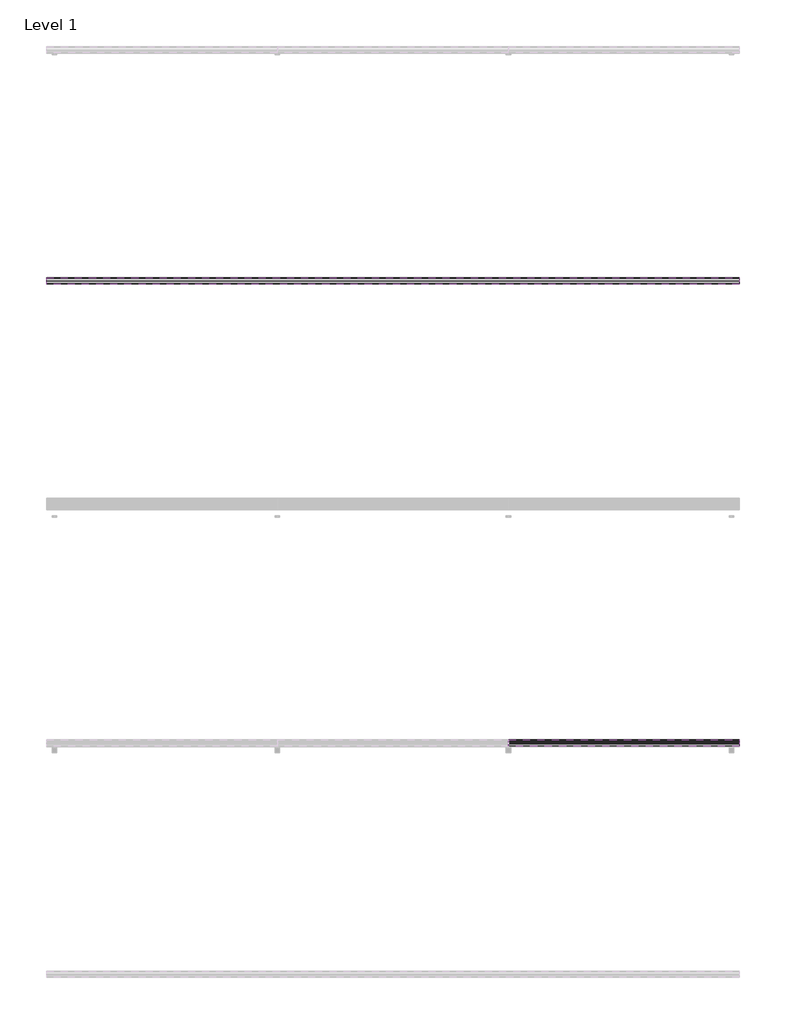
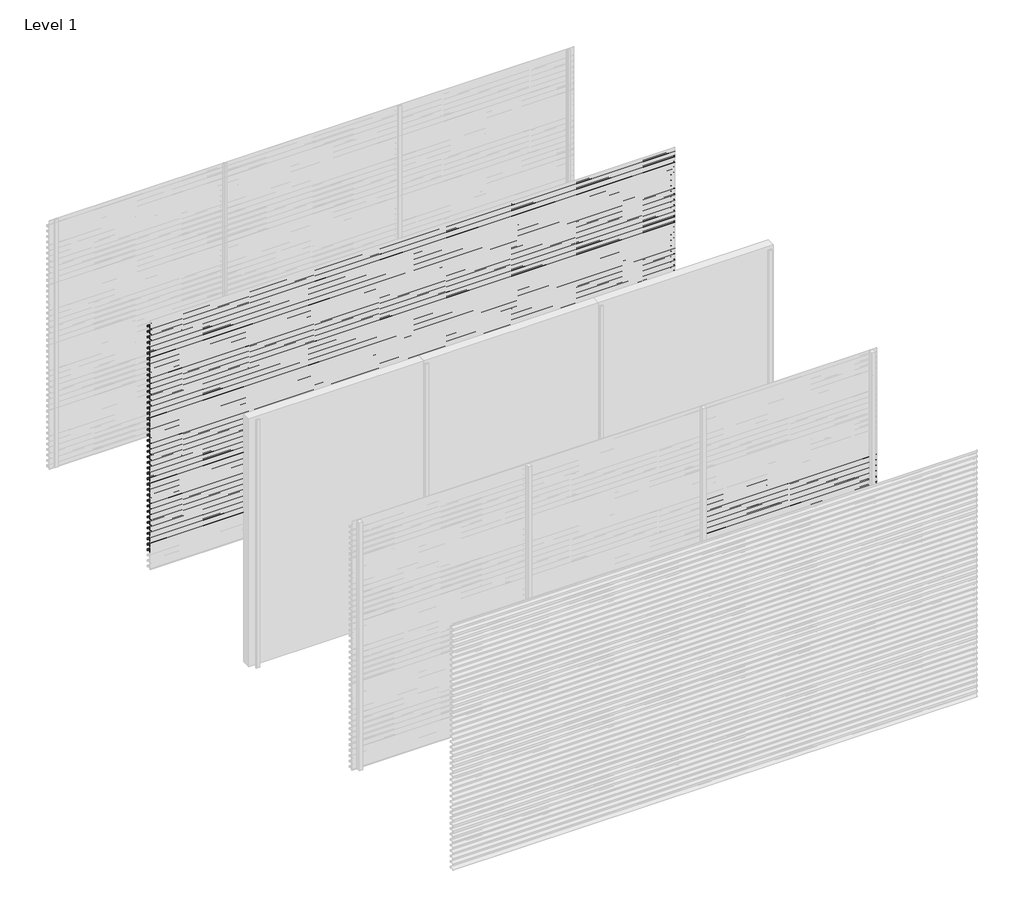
# One storey, part 15 of 27: 71 proxies.
"""IFC4 building model written with IfcOpenShell, lengths in millimetres."""

import ifcopenshell
import ifcopenshell.guid

model = None  # the IFC model being written
_history = None  # IfcOwnerHistory: only IFC2X3 demands one
_inside = {}  # id of a spatial element -> (the spatial element, [elements in it])
_under = {}  # id of a project, library or spatial element -> (it, [spatial elements below it])
_declared = {}  # id of a project -> (the project, [libraries it declares])
_typed = {}  # id of a type object -> (the type object, [elements of that type])
_made_of = {}  # id of a material, layer set ... -> (it, [elements and type objects made of it])


def new_model(schema):
    """Start an empty IFC model of exactly this schema.

    Asked for "IFC4X3", IfcOpenShell would pick the latest addendum, in which some entities
    have other attributes; the version numbers below select the first issue.
    IFC2X3 requires an IfcOwnerHistory on every rooted entity: one is made here for all.
    """
    global model, _history
    if schema == "IFC4X3":
        model = ifcopenshell.file(schema_version=(4, 3, 0, 0))
    else:
        model = ifcopenshell.file(schema=schema)
    _inside.clear()
    _under.clear()
    _declared.clear()
    _typed.clear()
    _made_of.clear()
    _history = None
    if model.schema == "IFC2X3":
        org = make("IfcOrganization", Name="unknown")
        user = make(
            "IfcPersonAndOrganization",
            ThePerson=make("IfcPerson", FamilyName="unknown"),
            TheOrganization=org,
        )
        app = make(
            "IfcApplication",
            ApplicationDeveloper=org,
            Version="unknown",
            ApplicationFullName="unknown",
            ApplicationIdentifier="unknown",
        )
        _history = make(
            "IfcOwnerHistory",
            OwningUser=user,
            OwningApplication=app,
            ChangeAction="ADDED",
            CreationDate=0,
        )
    return model


def make(cls, **values):
    """One entity of the class cls with the attributes given. An attribute that is None is left unset."""
    return model.create_entity(
        cls, **{name: value for name, value in values.items() if value is not None}
    )


def rooted(cls, **values):
    """An entity with a GlobalId (a new one), such as an element, a storey or a relation."""
    return make(cls, GlobalId=ifcopenshell.guid.new(), OwnerHistory=_history, **values)


def si_unit(unit_type, name, prefix=None):
    """IfcSIUnit, for example si_unit("LENGTHUNIT", "METRE", prefix="MILLI")."""
    return make("IfcSIUnit", UnitType=unit_type, Prefix=prefix, Name=name)


def assignment(units):
    """IfcUnitAssignment: the units of a project."""
    return None if units is None else make("IfcUnitAssignment", Units=units)


def point(xyz):
    """IfcCartesianPoint."""
    return None if xyz is None else make("IfcCartesianPoint", Coordinates=xyz)


def direction(xyz):
    """IfcDirection."""
    return None if xyz is None else make("IfcDirection", DirectionRatios=xyz)


def frame(location, z_axis=None, x_axis=None):
    """IfcAxis2Placement3D, a coordinate frame: its origin and axes. An axis left out is left unset."""
    return make(
        "IfcAxis2Placement3D",
        Location=point(location),
        Axis=direction(z_axis),
        RefDirection=direction(x_axis),
    )


def origin():
    """The frame at (0, 0, 0) with its axes left unset."""
    return frame((0.0, 0.0, 0.0))


def place(relative_to, where):
    """IfcLocalPlacement: puts the frame where relative to a parent placement (None: the world)."""
    return make(
        "IfcLocalPlacement", PlacementRelTo=relative_to, RelativePlacement=where
    )


def context(
    kind, dimensions, precision=None, world=None, true_north=None, identifier=None
):
    """IfcGeometricRepresentationContext, for example the 3D "Model" context."""
    return make(
        "IfcGeometricRepresentationContext",
        ContextIdentifier=identifier,
        ContextType=kind,
        CoordinateSpaceDimension=dimensions,
        Precision=precision,
        WorldCoordinateSystem=world,
        TrueNorth=true_north,
    )


def project(units=None, contexts=None):
    """IfcProject with its units and contexts."""
    return rooted(
        "IfcProject",
        Name="project",
        RepresentationContexts=contexts,
        UnitsInContext=assignment(units),
    )


def spatial(cls, under=None, at=None, **own):
    """A site, building, storey or space (cls), placed at a placement, below another one or the project."""
    s = rooted(cls, ObjectPlacement=at, **own)
    if under is not None:
        _under.setdefault(under.id(), (under, []))[1].append(s)
    return s


def polyline(points):
    """IfcPolyline through the points."""
    return make("IfcPolyline", Points=[point(p) for p in points])


def outline(outer, holes=None, kind="AREA"):
    """IfcArbitraryClosedProfileDef: a profile drawn as a closed curve; with holes, ...WithVoids."""
    if holes is None:
        return make("IfcArbitraryClosedProfileDef", ProfileType=kind, OuterCurve=outer)
    return make(
        "IfcArbitraryProfileDefWithVoids",
        ProfileType=kind,
        OuterCurve=outer,
        InnerCurves=holes,
    )


def extrude(swept, where, along, depth):
    """IfcExtrudedAreaSolid: the profile swept, set in the frame where, extruded along a direction by depth."""
    return make(
        "IfcExtrudedAreaSolid",
        SweptArea=swept,
        Position=where,
        ExtrudedDirection=direction(along),
        Depth=depth,
    )


def shape(context_of_items, identifier, shape_type, items):
    """IfcShapeRepresentation: the items that make up one representation, for example the "Body"."""
    return make(
        "IfcShapeRepresentation",
        ContextOfItems=context_of_items,
        RepresentationIdentifier=identifier,
        RepresentationType=shape_type,
        Items=items,
    )


def made_of(thing, what):
    """Note that an element or type object is made of a material, layer set ...; save() writes the relation."""
    if what is not None:
        _made_of.setdefault(what.id(), (what, []))[1].append(thing)
    return thing


def element(
    cls,
    number,
    at=None,
    inside=None,
    cuts=None,
    type_object=None,
    material=None,
    context=None,
    identifier="Body",
    shape_type=None,
    held_by="IfcProductDefinitionShape",
    body=None,
    shapes=None,
    **own,
):
    """One element of the class cls, such as IfcWall. Its Tag is "e" and its number.

    at: its placement. inside: the storey or other place that contains it. cuts: it is an
    opening in that element (IfcRelVoidsElement). A single representation is given by context,
    identifier, shape_type and body (its items); several are given by shapes. held_by: the class
    of the entity that holds the representations. save() writes the other relations.
    """
    e = rooted(cls, Tag="e%d" % number, ObjectPlacement=at, **own)
    if body is not None:
        shapes = [shape(context, identifier, shape_type, body)]
    if shapes is not None:
        e.Representation = make(held_by, Representations=shapes)
    if inside is not None:
        _inside.setdefault(inside.id(), (inside, []))[1].append(e)
    if cuts is not None:
        rooted(
            "IfcRelVoidsElement", RelatingBuildingElement=cuts, RelatedOpeningElement=e
        )
    if type_object is not None:
        _typed.setdefault(type_object.id(), (type_object, []))[1].append(e)
    return made_of(e, material)


def aggregate(whole, parts):
    """IfcRelAggregates: a whole, such as a stair, and the parts it consists of."""
    return rooted("IfcRelAggregates", RelatingObject=whole, RelatedObjects=parts)


def save(model, path):
    """Write the relations noted so far, then the file.

    IfcRelAggregates (storeys below a building ...), IfcRelContainedInSpatialStructure (elements
    in a storey), IfcRelDefinesByType, IfcRelAssociatesMaterial and IfcRelDeclares: one each for
    every whole, place, type object, material and project.
    """
    for whole, parts in _under.values():
        aggregate(whole, parts)
    for where, things in _inside.values():
        rooted(
            "IfcRelContainedInSpatialStructure",
            RelatedElements=things,
            RelatingStructure=where,
        )
    for kind, things in _typed.values():
        rooted("IfcRelDefinesByType", RelatedObjects=things, RelatingType=kind)
    for what, things in _made_of.values():
        rooted("IfcRelAssociatesMaterial", RelatedObjects=things, RelatingMaterial=what)
    for by, libraries in _declared.values():
        rooted("IfcRelDeclares", RelatingContext=by, RelatedDefinitions=libraries)
    model.write(path)


model = new_model("IFC4")

# Units and contexts
model_context = context("Model", 3, world=origin())
ifc_project = project(units=[si_unit("LENGTHUNIT", "METRE", prefix="MILLI")], contexts=[model_context])

# Site, building, storey
site = spatial("IfcSite", under=ifc_project)
building = spatial("IfcBuilding", under=site)
storey = spatial("IfcBuildingStorey", under=building, Name="Level 1", Elevation=0.0)

# Proxies
placement = place(None, origin())
element("IfcBuildingElementProxy", 1, Name="Wall Sweeps", at=placement, inside=storey, context=model_context, shape_type="SweptSolid", body=[
    extrude(outline(polyline([(-25943.0, 2913.2), (-25943.0, 2893.5), (-25944.25, 2894.5866084), (-25944.25, 2912.4872415), (-25963.0322086, 2925.6010889), (-25995.1332975, 2893.5), (-25996.0525363, 2894.4192388), (-25964.1148087, 2926.3569665), (-25998.0, 2950.0158044), (-25998.0, 2970.0), (-25996.75, 2970.0), (-25996.75, 2950.7285629), (-25943.0, 2913.2)])), frame((0.0, 0.0, 0.0), z_axis=(1.0, 0.0, 0.0), x_axis=(0.0, 1.0, 0.0)), (0.0, 0.0, 1.0), 6000.0),
])
element("IfcBuildingElementProxy", 2, Name="Wall Sweeps", at=placement, inside=storey, context=model_context, shape_type="SweptSolid", body=[
    extrude(outline(polyline([(-25943.0, 2847.2), (-25943.0, 2827.5), (-25944.25, 2828.5866084), (-25944.25, 2846.4872415), (-25963.0322086, 2859.6010889), (-25995.1332975, 2827.5), (-25996.0525363, 2828.4192388), (-25964.1148087, 2860.3569665), (-25998.0, 2884.0158044), (-25998.0, 2904.0), (-25996.75, 2904.0), (-25996.75, 2884.7285629), (-25943.0, 2847.2)])), frame((0.0, 0.0, 0.0), z_axis=(1.0, 0.0, 0.0), x_axis=(0.0, 1.0, 0.0)), (0.0, 0.0, 1.0), 6000.0),
])
element("IfcBuildingElementProxy", 3, Name="Wall Sweeps", at=placement, inside=storey, context=model_context, shape_type="SweptSolid", body=[
    extrude(outline(polyline([(-25943.0, 2781.2), (-25943.0, 2761.5), (-25944.25, 2762.5866084), (-25944.25, 2780.4872415), (-25963.0322086, 2793.6010889), (-25995.1332975, 2761.5), (-25996.0525363, 2762.4192388), (-25964.1148087, 2794.3569665), (-25998.0, 2818.0158044), (-25998.0, 2838.0), (-25996.75, 2838.0), (-25996.75, 2818.7285629), (-25943.0, 2781.2)])), frame((0.0, 0.0, 0.0), z_axis=(1.0, 0.0, 0.0), x_axis=(0.0, 1.0, 0.0)), (0.0, 0.0, 1.0), 6000.0),
])
element("IfcBuildingElementProxy", 4, Name="Wall Sweeps", at=placement, inside=storey, context=model_context, shape_type="SweptSolid", body=[
    extrude(outline(polyline([(-25943.0, 2715.2), (-25943.0, 2695.5), (-25944.25, 2696.5866084), (-25944.25, 2714.4872415), (-25963.0322086, 2727.6010889), (-25995.1332975, 2695.5), (-25996.0525363, 2696.4192388), (-25964.1148087, 2728.3569665), (-25998.0, 2752.0158044), (-25998.0, 2772.0), (-25996.75, 2772.0), (-25996.75, 2752.7285629), (-25943.0, 2715.2)])), frame((0.0, 0.0, 0.0), z_axis=(1.0, 0.0, 0.0), x_axis=(0.0, 1.0, 0.0)), (0.0, 0.0, 1.0), 6000.0),
])
element("IfcBuildingElementProxy", 5, Name="Wall Sweeps", at=placement, inside=storey, context=model_context, shape_type="SweptSolid", body=[
    extrude(outline(polyline([(-25943.0, 2649.2), (-25943.0, 2629.5), (-25944.25, 2630.5866084), (-25944.25, 2648.4872415), (-25963.0322086, 2661.6010889), (-25995.1332975, 2629.5), (-25996.0525363, 2630.4192388), (-25964.1148087, 2662.3569665), (-25998.0, 2686.0158044), (-25998.0, 2706.0), (-25996.75, 2706.0), (-25996.75, 2686.7285629), (-25943.0, 2649.2)])), frame((0.0, 0.0, 0.0), z_axis=(1.0, 0.0, 0.0), x_axis=(0.0, 1.0, 0.0)), (0.0, 0.0, 1.0), 6000.0),
])
element("IfcBuildingElementProxy", 6, Name="Wall Sweeps", at=placement, inside=storey, context=model_context, shape_type="SweptSolid", body=[
    extrude(outline(polyline([(-25943.0, 2583.2), (-25943.0, 2563.5), (-25944.25, 2564.5866084), (-25944.25, 2582.4872415), (-25963.0322086, 2595.6010889), (-25995.1332975, 2563.5), (-25996.0525363, 2564.4192388), (-25964.1148087, 2596.3569665), (-25998.0, 2620.0158044), (-25998.0, 2640.0), (-25996.75, 2640.0), (-25996.75, 2620.7285629), (-25943.0, 2583.2)])), frame((0.0, 0.0, 0.0), z_axis=(1.0, 0.0, 0.0), x_axis=(0.0, 1.0, 0.0)), (0.0, 0.0, 1.0), 6000.0),
])
element("IfcBuildingElementProxy", 7, Name="Wall Sweeps", at=placement, inside=storey, context=model_context, shape_type="SweptSolid", body=[
    extrude(outline(polyline([(-25943.0, 2517.2), (-25943.0, 2497.5), (-25944.25, 2498.5866084), (-25944.25, 2516.4872415), (-25963.0322086, 2529.6010889), (-25995.1332975, 2497.5), (-25996.0525363, 2498.4192388), (-25964.1148087, 2530.3569665), (-25998.0, 2554.0158044), (-25998.0, 2574.0), (-25996.75, 2574.0), (-25996.75, 2554.7285629), (-25943.0, 2517.2)])), frame((0.0, 0.0, 0.0), z_axis=(1.0, 0.0, 0.0), x_axis=(0.0, 1.0, 0.0)), (0.0, 0.0, 1.0), 6000.0),
])
element("IfcBuildingElementProxy", 8, Name="Wall Sweeps", at=placement, inside=storey, context=model_context, shape_type="SweptSolid", body=[
    extrude(outline(polyline([(-25943.0, 2451.2), (-25943.0, 2431.5), (-25944.25, 2432.5866084), (-25944.25, 2450.4872415), (-25963.0322086, 2463.6010889), (-25995.1332975, 2431.5), (-25996.0525363, 2432.4192388), (-25964.1148087, 2464.3569665), (-25998.0, 2488.0158044), (-25998.0, 2508.0), (-25996.75, 2508.0), (-25996.75, 2488.7285629), (-25943.0, 2451.2)])), frame((0.0, 0.0, 0.0), z_axis=(1.0, 0.0, 0.0), x_axis=(0.0, 1.0, 0.0)), (0.0, 0.0, 1.0), 6000.0),
])
element("IfcBuildingElementProxy", 9, Name="Wall Sweeps", at=placement, inside=storey, context=model_context, shape_type="SweptSolid", body=[
    extrude(outline(polyline([(-25943.0, 2385.2), (-25943.0, 2365.5), (-25944.25, 2366.5866084), (-25944.25, 2384.4872415), (-25963.0322086, 2397.6010889), (-25995.1332975, 2365.5), (-25996.0525363, 2366.4192388), (-25964.1148087, 2398.3569665), (-25998.0, 2422.0158044), (-25998.0, 2442.0), (-25996.75, 2442.0), (-25996.75, 2422.7285629), (-25943.0, 2385.2)])), frame((0.0, 0.0, 0.0), z_axis=(1.0, 0.0, 0.0), x_axis=(0.0, 1.0, 0.0)), (0.0, 0.0, 1.0), 6000.0),
])
element("IfcBuildingElementProxy", 10, Name="Wall Sweeps", at=placement, inside=storey, context=model_context, shape_type="SweptSolid", body=[
    extrude(outline(polyline([(-25943.0, 2319.2), (-25943.0, 2299.5), (-25944.25, 2300.5866084), (-25944.25, 2318.4872415), (-25963.0322086, 2331.6010889), (-25995.1332975, 2299.5), (-25996.0525363, 2300.4192388), (-25964.1148087, 2332.3569665), (-25998.0, 2356.0158044), (-25998.0, 2376.0), (-25996.75, 2376.0), (-25996.75, 2356.7285629), (-25943.0, 2319.2)])), frame((0.0, 0.0, 0.0), z_axis=(1.0, 0.0, 0.0), x_axis=(0.0, 1.0, 0.0)), (0.0, 0.0, 1.0), 6000.0),
])
element("IfcBuildingElementProxy", 11, Name="Wall Sweeps", at=placement, inside=storey, context=model_context, shape_type="SweptSolid", body=[
    extrude(outline(polyline([(-25943.0, 2253.2), (-25943.0, 2233.5), (-25944.25, 2234.5866084), (-25944.25, 2252.4872415), (-25963.0322086, 2265.6010889), (-25995.1332975, 2233.5), (-25996.0525363, 2234.4192388), (-25964.1148087, 2266.3569665), (-25998.0, 2290.0158044), (-25998.0, 2310.0), (-25996.75, 2310.0), (-25996.75, 2290.7285629), (-25943.0, 2253.2)])), frame((0.0, 0.0, 0.0), z_axis=(1.0, 0.0, 0.0), x_axis=(0.0, 1.0, 0.0)), (0.0, 0.0, 1.0), 6000.0),
])
element("IfcBuildingElementProxy", 12, Name="Wall Sweeps", at=placement, inside=storey, context=model_context, shape_type="SweptSolid", body=[
    extrude(outline(polyline([(-25943.0, 2187.2), (-25943.0, 2167.5), (-25944.25, 2168.5866084), (-25944.25, 2186.4872415), (-25963.0322086, 2199.6010889), (-25995.1332975, 2167.5), (-25996.0525363, 2168.4192388), (-25964.1148087, 2200.3569665), (-25998.0, 2224.0158044), (-25998.0, 2244.0), (-25996.75, 2244.0), (-25996.75, 2224.7285629), (-25943.0, 2187.2)])), frame((0.0, 0.0, 0.0), z_axis=(1.0, 0.0, 0.0), x_axis=(0.0, 1.0, 0.0)), (0.0, 0.0, 1.0), 6000.0),
])
element("IfcBuildingElementProxy", 13, Name="Wall Sweeps", at=placement, inside=storey, context=model_context, shape_type="SweptSolid", body=[
    extrude(outline(polyline([(-25943.0, 2121.2), (-25943.0, 2101.5), (-25944.25, 2102.5866084), (-25944.25, 2120.4872415), (-25963.0322086, 2133.6010889), (-25995.1332975, 2101.5), (-25996.0525363, 2102.4192388), (-25964.1148087, 2134.3569665), (-25998.0, 2158.0158044), (-25998.0, 2178.0), (-25996.75, 2178.0), (-25996.75, 2158.7285629), (-25943.0, 2121.2)])), frame((0.0, 0.0, 0.0), z_axis=(1.0, 0.0, 0.0), x_axis=(0.0, 1.0, 0.0)), (0.0, 0.0, 1.0), 6000.0),
])
element("IfcBuildingElementProxy", 14, Name="Wall Sweeps", at=placement, inside=storey, context=model_context, shape_type="SweptSolid", body=[
    extrude(outline(polyline([(-25943.0, 2055.2), (-25943.0, 2035.5), (-25944.25, 2036.5866084), (-25944.25, 2054.4872415), (-25963.0322086, 2067.6010889), (-25995.1332975, 2035.5), (-25996.0525363, 2036.4192388), (-25964.1148087, 2068.3569665), (-25998.0, 2092.0158044), (-25998.0, 2112.0), (-25996.75, 2112.0), (-25996.75, 2092.7285629), (-25943.0, 2055.2)])), frame((0.0, 0.0, 0.0), z_axis=(1.0, 0.0, 0.0), x_axis=(0.0, 1.0, 0.0)), (0.0, 0.0, 1.0), 6000.0),
])
element("IfcBuildingElementProxy", 15, Name="Wall Sweeps", at=placement, inside=storey, context=model_context, shape_type="SweptSolid", body=[
    extrude(outline(polyline([(-25943.0, 1989.2), (-25943.0, 1969.5), (-25944.25, 1970.5866084), (-25944.25, 1988.4872415), (-25963.0322086, 2001.6010889), (-25995.1332975, 1969.5), (-25996.0525363, 1970.4192388), (-25964.1148087, 2002.3569665), (-25998.0, 2026.0158044), (-25998.0, 2046.0), (-25996.75, 2046.0), (-25996.75, 2026.7285629), (-25943.0, 1989.2)])), frame((0.0, 0.0, 0.0), z_axis=(1.0, 0.0, 0.0), x_axis=(0.0, 1.0, 0.0)), (0.0, 0.0, 1.0), 6000.0),
])
element("IfcBuildingElementProxy", 16, Name="Wall Sweeps", at=placement, inside=storey, context=model_context, shape_type="SweptSolid", body=[
    extrude(outline(polyline([(-25943.0, 1923.2), (-25943.0, 1903.5), (-25944.25, 1904.5866084), (-25944.25, 1922.4872415), (-25963.0322086, 1935.6010889), (-25995.1332975, 1903.5), (-25996.0525363, 1904.4192388), (-25964.1148087, 1936.3569665), (-25998.0, 1960.0158044), (-25998.0, 1980.0), (-25996.75, 1980.0), (-25996.75, 1960.7285629), (-25943.0, 1923.2)])), frame((0.0, 0.0, 0.0), z_axis=(1.0, 0.0, 0.0), x_axis=(0.0, 1.0, 0.0)), (0.0, 0.0, 1.0), 6000.0),
])
element("IfcBuildingElementProxy", 17, Name="Wall Sweeps", at=placement, inside=storey, context=model_context, shape_type="SweptSolid", body=[
    extrude(outline(polyline([(-25943.0, 1857.2), (-25943.0, 1837.5), (-25944.25, 1838.5866084), (-25944.25, 1856.4872415), (-25963.0322086, 1869.6010889), (-25995.1332975, 1837.5), (-25996.0525363, 1838.4192388), (-25964.1148087, 1870.3569665), (-25998.0, 1894.0158044), (-25998.0, 1914.0), (-25996.75, 1914.0), (-25996.75, 1894.7285629), (-25943.0, 1857.2)])), frame((0.0, 0.0, 0.0), z_axis=(1.0, 0.0, 0.0), x_axis=(0.0, 1.0, 0.0)), (0.0, 0.0, 1.0), 6000.0),
])
element("IfcBuildingElementProxy", 18, Name="Wall Sweeps", at=placement, inside=storey, context=model_context, shape_type="SweptSolid", body=[
    extrude(outline(polyline([(-25943.0, 1791.2), (-25943.0, 1771.5), (-25944.25, 1772.5866084), (-25944.25, 1790.4872415), (-25963.0322086, 1803.6010889), (-25995.1332975, 1771.5), (-25996.0525363, 1772.4192388), (-25964.1148087, 1804.3569665), (-25998.0, 1828.0158044), (-25998.0, 1848.0), (-25996.75, 1848.0), (-25996.75, 1828.7285629), (-25943.0, 1791.2)])), frame((0.0, 0.0, 0.0), z_axis=(1.0, 0.0, 0.0), x_axis=(0.0, 1.0, 0.0)), (0.0, 0.0, 1.0), 6000.0),
])
element("IfcBuildingElementProxy", 19, Name="Wall Sweeps", at=placement, inside=storey, context=model_context, shape_type="SweptSolid", body=[
    extrude(outline(polyline([(-25943.0, 1725.2), (-25943.0, 1705.5), (-25944.25, 1706.5866084), (-25944.25, 1724.4872415), (-25963.0322086, 1737.6010889), (-25995.1332975, 1705.5), (-25996.0525363, 1706.4192388), (-25964.1148087, 1738.3569665), (-25998.0, 1762.0158044), (-25998.0, 1782.0), (-25996.75, 1782.0), (-25996.75, 1762.7285629), (-25943.0, 1725.2)])), frame((0.0, 0.0, 0.0), z_axis=(1.0, 0.0, 0.0), x_axis=(0.0, 1.0, 0.0)), (0.0, 0.0, 1.0), 6000.0),
])
element("IfcBuildingElementProxy", 20, Name="Wall Sweeps", at=placement, inside=storey, context=model_context, shape_type="SweptSolid", body=[
    extrude(outline(polyline([(-25943.0, 1659.2), (-25943.0, 1639.5), (-25944.25, 1640.5866084), (-25944.25, 1658.4872415), (-25963.0322086, 1671.6010889), (-25995.1332975, 1639.5), (-25996.0525363, 1640.4192388), (-25964.1148087, 1672.3569665), (-25998.0, 1696.0158044), (-25998.0, 1716.0), (-25996.75, 1716.0), (-25996.75, 1696.7285629), (-25943.0, 1659.2)])), frame((0.0, 0.0, 0.0), z_axis=(1.0, 0.0, 0.0), x_axis=(0.0, 1.0, 0.0)), (0.0, 0.0, 1.0), 6000.0),
])
element("IfcBuildingElementProxy", 21, Name="Wall Sweeps", at=placement, inside=storey, context=model_context, shape_type="SweptSolid", body=[
    extrude(outline(polyline([(-25943.0, 1593.2), (-25943.0, 1573.5), (-25944.25, 1574.5866084), (-25944.25, 1592.4872415), (-25963.0322086, 1605.6010889), (-25995.1332975, 1573.5), (-25996.0525363, 1574.4192388), (-25964.1148087, 1606.3569665), (-25998.0, 1630.0158044), (-25998.0, 1650.0), (-25996.75, 1650.0), (-25996.75, 1630.7285629), (-25943.0, 1593.2)])), frame((0.0, 0.0, 0.0), z_axis=(1.0, 0.0, 0.0), x_axis=(0.0, 1.0, 0.0)), (0.0, 0.0, 1.0), 6000.0),
])
element("IfcBuildingElementProxy", 22, Name="Wall Sweeps", at=placement, inside=storey, context=model_context, shape_type="SweptSolid", body=[
    extrude(outline(polyline([(-25943.0, 1527.2), (-25943.0, 1507.5), (-25944.25, 1508.5866084), (-25944.25, 1526.4872415), (-25963.0322086, 1539.6010889), (-25995.1332975, 1507.5), (-25996.0525363, 1508.4192388), (-25964.1148087, 1540.3569665), (-25998.0, 1564.0158044), (-25998.0, 1584.0), (-25996.75, 1584.0), (-25996.75, 1564.7285629), (-25943.0, 1527.2)])), frame((0.0, 0.0, 0.0), z_axis=(1.0, 0.0, 0.0), x_axis=(0.0, 1.0, 0.0)), (0.0, 0.0, 1.0), 6000.0),
])
element("IfcBuildingElementProxy", 23, Name="Wall Sweeps", at=placement, inside=storey, context=model_context, shape_type="SweptSolid", body=[
    extrude(outline(polyline([(-25943.0, 1461.2), (-25943.0, 1441.5), (-25944.25, 1442.5866084), (-25944.25, 1460.4872415), (-25963.0322086, 1473.6010889), (-25995.1332975, 1441.5), (-25996.0525363, 1442.4192388), (-25964.1148087, 1474.3569665), (-25998.0, 1498.0158044), (-25998.0, 1518.0), (-25996.75, 1518.0), (-25996.75, 1498.7285629), (-25943.0, 1461.2)])), frame((0.0, 0.0, 0.0), z_axis=(1.0, 0.0, 0.0), x_axis=(0.0, 1.0, 0.0)), (0.0, 0.0, 1.0), 6000.0),
])
element("IfcBuildingElementProxy", 24, Name="Wall Sweeps", at=placement, inside=storey, context=model_context, shape_type="SweptSolid", body=[
    extrude(outline(polyline([(-25943.0, 1395.2), (-25943.0, 1375.5), (-25944.25, 1376.5866084), (-25944.25, 1394.4872415), (-25963.0322086, 1407.6010889), (-25995.1332975, 1375.5), (-25996.0525363, 1376.4192388), (-25964.1148087, 1408.3569665), (-25998.0, 1432.0158044), (-25998.0, 1452.0), (-25996.75, 1452.0), (-25996.75, 1432.7285629), (-25943.0, 1395.2)])), frame((0.0, 0.0, 0.0), z_axis=(1.0, 0.0, 0.0), x_axis=(0.0, 1.0, 0.0)), (0.0, 0.0, 1.0), 6000.0),
])
element("IfcBuildingElementProxy", 25, Name="Wall Sweeps", at=placement, inside=storey, context=model_context, shape_type="SweptSolid", body=[
    extrude(outline(polyline([(-25943.0, 1329.2), (-25943.0, 1309.5), (-25944.25, 1310.5866084), (-25944.25, 1328.4872415), (-25963.0322086, 1341.6010889), (-25995.1332975, 1309.5), (-25996.0525363, 1310.4192388), (-25964.1148087, 1342.3569665), (-25998.0, 1366.0158044), (-25998.0, 1386.0), (-25996.75, 1386.0), (-25996.75, 1366.7285629), (-25943.0, 1329.2)])), frame((0.0, 0.0, 0.0), z_axis=(1.0, 0.0, 0.0), x_axis=(0.0, 1.0, 0.0)), (0.0, 0.0, 1.0), 6000.0),
])
element("IfcBuildingElementProxy", 26, Name="Wall Sweeps", at=placement, inside=storey, context=model_context, shape_type="SweptSolid", body=[
    extrude(outline(polyline([(-25943.0, 1263.2), (-25943.0, 1243.5), (-25944.25, 1244.5866084), (-25944.25, 1262.4872415), (-25963.0322086, 1275.6010889), (-25995.1332975, 1243.5), (-25996.0525363, 1244.4192388), (-25964.1148087, 1276.3569665), (-25998.0, 1300.0158044), (-25998.0, 1320.0), (-25996.75, 1320.0), (-25996.75, 1300.7285629), (-25943.0, 1263.2)])), frame((0.0, 0.0, 0.0), z_axis=(1.0, 0.0, 0.0), x_axis=(0.0, 1.0, 0.0)), (0.0, 0.0, 1.0), 6000.0),
])
element("IfcBuildingElementProxy", 27, Name="Wall Sweeps", at=placement, inside=storey, context=model_context, shape_type="SweptSolid", body=[
    extrude(outline(polyline([(-25943.0, 1197.2), (-25943.0, 1177.5), (-25944.25, 1178.5866084), (-25944.25, 1196.4872415), (-25963.0322086, 1209.6010889), (-25995.1332975, 1177.5), (-25996.0525363, 1178.4192388), (-25964.1148087, 1210.3569665), (-25998.0, 1234.0158044), (-25998.0, 1254.0), (-25996.75, 1254.0), (-25996.75, 1234.7285629), (-25943.0, 1197.2)])), frame((0.0, 0.0, 0.0), z_axis=(1.0, 0.0, 0.0), x_axis=(0.0, 1.0, 0.0)), (0.0, 0.0, 1.0), 6000.0),
])
element("IfcBuildingElementProxy", 28, Name="Wall Sweeps", at=placement, inside=storey, context=model_context, shape_type="SweptSolid", body=[
    extrude(outline(polyline([(-25943.0, 1131.2), (-25943.0, 1111.5), (-25944.25, 1112.5866084), (-25944.25, 1130.4872415), (-25963.0322086, 1143.6010889), (-25995.1332975, 1111.5), (-25996.0525363, 1112.4192388), (-25964.1148087, 1144.3569665), (-25998.0, 1168.0158044), (-25998.0, 1188.0), (-25996.75, 1188.0), (-25996.75, 1168.7285629), (-25943.0, 1131.2)])), frame((0.0, 0.0, 0.0), z_axis=(1.0, 0.0, 0.0), x_axis=(0.0, 1.0, 0.0)), (0.0, 0.0, 1.0), 6000.0),
])
element("IfcBuildingElementProxy", 29, Name="Wall Sweeps", at=placement, inside=storey, context=model_context, shape_type="SweptSolid", body=[
    extrude(outline(polyline([(-25943.0, 1065.2), (-25943.0, 1045.5), (-25944.25, 1046.5866084), (-25944.25, 1064.4872415), (-25963.0322086, 1077.6010889), (-25995.1332975, 1045.5), (-25996.0525363, 1046.4192388), (-25964.1148087, 1078.3569665), (-25998.0, 1102.0158044), (-25998.0, 1122.0), (-25996.75, 1122.0), (-25996.75, 1102.7285629), (-25943.0, 1065.2)])), frame((0.0, 0.0, 0.0), z_axis=(1.0, 0.0, 0.0), x_axis=(0.0, 1.0, 0.0)), (0.0, 0.0, 1.0), 6000.0),
])
element("IfcBuildingElementProxy", 30, Name="Wall Sweeps", at=placement, inside=storey, context=model_context, shape_type="SweptSolid", body=[
    extrude(outline(polyline([(-25943.0, 999.2), (-25943.0, 979.5), (-25944.25, 980.5866084), (-25944.25, 998.4872415), (-25963.0322086, 1011.6010889), (-25995.1332975, 979.5), (-25996.0525363, 980.4192388), (-25964.1148087, 1012.3569665), (-25998.0, 1036.0158044), (-25998.0, 1056.0), (-25996.75, 1056.0), (-25996.75, 1036.7285629), (-25943.0, 999.2)])), frame((0.0, 0.0, 0.0), z_axis=(1.0, 0.0, 0.0), x_axis=(0.0, 1.0, 0.0)), (0.0, 0.0, 1.0), 6000.0),
])
element("IfcBuildingElementProxy", 31, Name="Wall Sweeps", at=placement, inside=storey, context=model_context, shape_type="SweptSolid", body=[
    extrude(outline(polyline([(-25943.0, 933.2), (-25943.0, 913.5), (-25944.25, 914.5866084), (-25944.25, 932.4872415), (-25963.0322086, 945.6010889), (-25995.1332975, 913.5), (-25996.0525363, 914.4192388), (-25964.1148087, 946.3569665), (-25998.0, 970.0158044), (-25998.0, 990.0), (-25996.75, 990.0), (-25996.75, 970.7285629), (-25943.0, 933.2)])), frame((0.0, 0.0, 0.0), z_axis=(1.0, 0.0, 0.0), x_axis=(0.0, 1.0, 0.0)), (0.0, 0.0, 1.0), 6000.0),
])
element("IfcBuildingElementProxy", 32, Name="Wall Sweeps", at=placement, inside=storey, context=model_context, shape_type="SweptSolid", body=[
    extrude(outline(polyline([(-25943.0, 867.2), (-25943.0, 847.5), (-25944.25, 848.5866084), (-25944.25, 866.4872415), (-25963.0322086, 879.6010889), (-25995.1332975, 847.5), (-25996.0525363, 848.4192388), (-25964.1148087, 880.3569665), (-25998.0, 904.0158044), (-25998.0, 924.0), (-25996.75, 924.0), (-25996.75, 904.7285629), (-25943.0, 867.2)])), frame((0.0, 0.0, 0.0), z_axis=(1.0, 0.0, 0.0), x_axis=(0.0, 1.0, 0.0)), (0.0, 0.0, 1.0), 6000.0),
])
element("IfcBuildingElementProxy", 33, Name="Wall Sweeps", at=placement, inside=storey, context=model_context, shape_type="SweptSolid", body=[
    extrude(outline(polyline([(-25943.0, 801.2), (-25943.0, 781.5), (-25944.25, 782.5866084), (-25944.25, 800.4872415), (-25963.0322086, 813.6010889), (-25995.1332975, 781.5), (-25996.0525363, 782.4192388), (-25964.1148087, 814.3569665), (-25998.0, 838.0158044), (-25998.0, 858.0), (-25996.75, 858.0), (-25996.75, 838.7285629), (-25943.0, 801.2)])), frame((0.0, 0.0, 0.0), z_axis=(1.0, 0.0, 0.0), x_axis=(0.0, 1.0, 0.0)), (0.0, 0.0, 1.0), 6000.0),
])
element("IfcBuildingElementProxy", 34, Name="Wall Sweeps", at=placement, inside=storey, context=model_context, shape_type="SweptSolid", body=[
    extrude(outline(polyline([(-25943.0, 735.2), (-25943.0, 715.5), (-25944.25, 716.5866084), (-25944.25, 734.4872415), (-25963.0322086, 747.6010889), (-25995.1332975, 715.5), (-25996.0525363, 716.4192388), (-25964.1148087, 748.3569665), (-25998.0, 772.0158044), (-25998.0, 792.0), (-25996.75, 792.0), (-25996.75, 772.7285629), (-25943.0, 735.2)])), frame((0.0, 0.0, 0.0), z_axis=(1.0, 0.0, 0.0), x_axis=(0.0, 1.0, 0.0)), (0.0, 0.0, 1.0), 6000.0),
])
element("IfcBuildingElementProxy", 35, Name="Wall Sweeps", at=placement, inside=storey, context=model_context, shape_type="SweptSolid", body=[
    extrude(outline(polyline([(-25943.0, 669.2), (-25943.0, 649.5), (-25944.25, 650.5866084), (-25944.25, 668.4872415), (-25963.0322086, 681.6010889), (-25995.1332975, 649.5), (-25996.0525363, 650.4192388), (-25964.1148087, 682.3569665), (-25998.0, 706.0158044), (-25998.0, 726.0), (-25996.75, 726.0), (-25996.75, 706.7285629), (-25943.0, 669.2)])), frame((0.0, 0.0, 0.0), z_axis=(1.0, 0.0, 0.0), x_axis=(0.0, 1.0, 0.0)), (0.0, 0.0, 1.0), 6000.0),
])
element("IfcBuildingElementProxy", 36, Name="Wall Sweeps", at=placement, inside=storey, context=model_context, shape_type="SweptSolid", body=[
    extrude(outline(polyline([(-25943.0, 603.2), (-25943.0, 583.5), (-25944.25, 584.5866084), (-25944.25, 602.4872415), (-25963.0322086, 615.6010889), (-25995.1332975, 583.5), (-25996.0525363, 584.4192388), (-25964.1148087, 616.3569665), (-25998.0, 640.0158044), (-25998.0, 660.0), (-25996.75, 660.0), (-25996.75, 640.7285629), (-25943.0, 603.2)])), frame((0.0, 0.0, 0.0), z_axis=(1.0, 0.0, 0.0), x_axis=(0.0, 1.0, 0.0)), (0.0, 0.0, 1.0), 6000.0),
])
element("IfcBuildingElementProxy", 37, Name="Wall Sweeps", at=placement, inside=storey, context=model_context, shape_type="SweptSolid", body=[
    extrude(outline(polyline([(-25943.0, 537.2), (-25943.0, 517.5), (-25944.25, 518.5866084), (-25944.25, 536.4872415), (-25963.0322086, 549.6010889), (-25995.1332975, 517.5), (-25996.0525363, 518.4192388), (-25964.1148087, 550.3569665), (-25998.0, 574.0158044), (-25998.0, 594.0), (-25996.75, 594.0), (-25996.75, 574.7285629), (-25943.0, 537.2)])), frame((0.0, 0.0, 0.0), z_axis=(1.0, 0.0, 0.0), x_axis=(0.0, 1.0, 0.0)), (0.0, 0.0, 1.0), 6000.0),
])
element("IfcBuildingElementProxy", 38, Name="Wall Sweeps", at=placement, inside=storey, context=model_context, shape_type="SweptSolid", body=[
    extrude(outline(polyline([(-25943.0, 471.2), (-25943.0, 451.5), (-25944.25, 452.5866084), (-25944.25, 470.4872415), (-25963.0322086, 483.6010889), (-25995.1332975, 451.5), (-25996.0525363, 452.4192388), (-25964.1148087, 484.3569665), (-25998.0, 508.0158044), (-25998.0, 528.0), (-25996.75, 528.0), (-25996.75, 508.7285629), (-25943.0, 471.2)])), frame((0.0, 0.0, 0.0), z_axis=(1.0, 0.0, 0.0), x_axis=(0.0, 1.0, 0.0)), (0.0, 0.0, 1.0), 6000.0),
])
element("IfcBuildingElementProxy", 39, Name="Wall Sweeps", at=placement, inside=storey, context=model_context, shape_type="SweptSolid", body=[
    extrude(outline(polyline([(-25943.0, 405.2), (-25943.0, 385.5), (-25944.25, 386.5866084), (-25944.25, 404.4872415), (-25963.0322086, 417.6010889), (-25995.1332975, 385.5), (-25996.0525363, 386.4192388), (-25964.1148087, 418.3569665), (-25998.0, 442.0158044), (-25998.0, 462.0), (-25996.75, 462.0), (-25996.75, 442.7285629), (-25943.0, 405.2)])), frame((0.0, 0.0, 0.0), z_axis=(1.0, 0.0, 0.0), x_axis=(0.0, 1.0, 0.0)), (0.0, 0.0, 1.0), 6000.0),
])
element("IfcBuildingElementProxy", 40, Name="Wall Sweeps", at=placement, inside=storey, context=model_context, shape_type="SweptSolid", body=[
    extrude(outline(polyline([(-25943.0, 339.2), (-25943.0, 319.5), (-25944.25, 320.5866084), (-25944.25, 338.4872415), (-25963.0322086, 351.6010889), (-25995.1332975, 319.5), (-25996.0525363, 320.4192388), (-25964.1148087, 352.3569665), (-25998.0, 376.0158044), (-25998.0, 396.0), (-25996.75, 396.0), (-25996.75, 376.7285629), (-25943.0, 339.2)])), frame((0.0, 0.0, 0.0), z_axis=(1.0, 0.0, 0.0), x_axis=(0.0, 1.0, 0.0)), (0.0, 0.0, 1.0), 6000.0),
])
element("IfcBuildingElementProxy", 41, Name="Wall Sweeps", at=placement, inside=storey, context=model_context, shape_type="SweptSolid", body=[
    extrude(outline(polyline([(-25943.0, 273.2), (-25943.0, 253.5), (-25944.25, 254.5866084), (-25944.25, 272.4872415), (-25963.0322086, 285.6010889), (-25995.1332975, 253.5), (-25996.0525363, 254.4192388), (-25964.1148087, 286.3569665), (-25998.0, 310.0158044), (-25998.0, 330.0), (-25996.75, 330.0), (-25996.75, 310.7285629), (-25943.0, 273.2)])), frame((0.0, 0.0, 0.0), z_axis=(1.0, 0.0, 0.0), x_axis=(0.0, 1.0, 0.0)), (0.0, 0.0, 1.0), 6000.0),
])
element("IfcBuildingElementProxy", 42, Name="Wall Sweeps", at=placement, inside=storey, context=model_context, shape_type="SweptSolid", body=[
    extrude(outline(polyline([(-25943.0, 207.2), (-25943.0, 187.5), (-25944.25, 188.5866084), (-25944.25, 206.4872415), (-25963.0322086, 219.6010889), (-25995.1332975, 187.5), (-25996.0525363, 188.4192388), (-25964.1148087, 220.3569665), (-25998.0, 244.0158044), (-25998.0, 264.0), (-25996.75, 264.0), (-25996.75, 244.7285629), (-25943.0, 207.2)])), frame((0.0, 0.0, 0.0), z_axis=(1.0, 0.0, 0.0), x_axis=(0.0, 1.0, 0.0)), (0.0, 0.0, 1.0), 6000.0),
])
element("IfcBuildingElementProxy", 43, Name="Wall Sweeps", at=placement, inside=storey, context=model_context, shape_type="SweptSolid", body=[
    extrude(outline(polyline([(-29943.0, 1857.2), (-29943.0, 1837.5), (-29944.25, 1838.5866084), (-29944.25, 1856.4872415), (-29963.0322086, 1869.6010889), (-29995.1332975, 1837.5), (-29996.0525363, 1838.4192388), (-29964.1148087, 1870.3569665), (-29998.0, 1894.0158044), (-29998.0, 1914.0), (-29996.75, 1914.0), (-29996.75, 1894.7285629), (-29943.0, 1857.2)])), frame((4000.0, 0.0, 0.0), z_axis=(1.0, 0.0, 0.0), x_axis=(0.0, 1.0, 0.0)), (0.0, 0.0, 1.0), 2000.0),
])
element("IfcBuildingElementProxy", 44, Name="Wall Sweeps", at=placement, inside=storey, context=model_context, shape_type="SweptSolid", body=[
    extrude(outline(polyline([(-29943.0, 1791.2), (-29943.0, 1771.5), (-29944.25, 1772.5866084), (-29944.25, 1790.4872415), (-29963.0322086, 1803.6010889), (-29995.1332975, 1771.5), (-29996.0525363, 1772.4192388), (-29964.1148087, 1804.3569665), (-29998.0, 1828.0158044), (-29998.0, 1848.0), (-29996.75, 1848.0), (-29996.75, 1828.7285629), (-29943.0, 1791.2)])), frame((4000.0, 0.0, 0.0), z_axis=(1.0, 0.0, 0.0), x_axis=(0.0, 1.0, 0.0)), (0.0, 0.0, 1.0), 2000.0),
])
element("IfcBuildingElementProxy", 45, Name="Wall Sweeps", at=placement, inside=storey, context=model_context, shape_type="SweptSolid", body=[
    extrude(outline(polyline([(-29943.0, 1725.2), (-29943.0, 1705.5), (-29944.25, 1706.5866084), (-29944.25, 1724.4872415), (-29963.0322086, 1737.6010889), (-29995.1332975, 1705.5), (-29996.0525363, 1706.4192388), (-29964.1148087, 1738.3569665), (-29998.0, 1762.0158044), (-29998.0, 1782.0), (-29996.75, 1782.0), (-29996.75, 1762.7285629), (-29943.0, 1725.2)])), frame((4000.0, 0.0, 0.0), z_axis=(1.0, 0.0, 0.0), x_axis=(0.0, 1.0, 0.0)), (0.0, 0.0, 1.0), 2000.0),
])
element("IfcBuildingElementProxy", 46, Name="Wall Sweeps", at=placement, inside=storey, context=model_context, shape_type="SweptSolid", body=[
    extrude(outline(polyline([(-29943.0, 1659.2), (-29943.0, 1639.5), (-29944.25, 1640.5866084), (-29944.25, 1658.4872415), (-29963.0322086, 1671.6010889), (-29995.1332975, 1639.5), (-29996.0525363, 1640.4192388), (-29964.1148087, 1672.3569665), (-29998.0, 1696.0158044), (-29998.0, 1716.0), (-29996.75, 1716.0), (-29996.75, 1696.7285629), (-29943.0, 1659.2)])), frame((4000.0, 0.0, 0.0), z_axis=(1.0, 0.0, 0.0), x_axis=(0.0, 1.0, 0.0)), (0.0, 0.0, 1.0), 2000.0),
])
element("IfcBuildingElementProxy", 47, Name="Wall Sweeps", at=placement, inside=storey, context=model_context, shape_type="SweptSolid", body=[
    extrude(outline(polyline([(-29943.0, 1593.2), (-29943.0, 1573.5), (-29944.25, 1574.5866084), (-29944.25, 1592.4872415), (-29963.0322086, 1605.6010889), (-29995.1332975, 1573.5), (-29996.0525363, 1574.4192388), (-29964.1148087, 1606.3569665), (-29998.0, 1630.0158044), (-29998.0, 1650.0), (-29996.75, 1650.0), (-29996.75, 1630.7285629), (-29943.0, 1593.2)])), frame((4000.0, 0.0, 0.0), z_axis=(1.0, 0.0, 0.0), x_axis=(0.0, 1.0, 0.0)), (0.0, 0.0, 1.0), 2000.0),
])
element("IfcBuildingElementProxy", 48, Name="Wall Sweeps", at=placement, inside=storey, context=model_context, shape_type="SweptSolid", body=[
    extrude(outline(polyline([(-29943.0, 1527.2), (-29943.0, 1507.5), (-29944.25, 1508.5866084), (-29944.25, 1526.4872415), (-29963.0322086, 1539.6010889), (-29995.1332975, 1507.5), (-29996.0525363, 1508.4192388), (-29964.1148087, 1540.3569665), (-29998.0, 1564.0158044), (-29998.0, 1584.0), (-29996.75, 1584.0), (-29996.75, 1564.7285629), (-29943.0, 1527.2)])), frame((4000.0, 0.0, 0.0), z_axis=(1.0, 0.0, 0.0), x_axis=(0.0, 1.0, 0.0)), (0.0, 0.0, 1.0), 2000.0),
])
element("IfcBuildingElementProxy", 49, Name="Wall Sweeps", at=placement, inside=storey, context=model_context, shape_type="SweptSolid", body=[
    extrude(outline(polyline([(-29943.0, 1461.2), (-29943.0, 1441.5), (-29944.25, 1442.5866084), (-29944.25, 1460.4872415), (-29963.0322086, 1473.6010889), (-29995.1332975, 1441.5), (-29996.0525363, 1442.4192388), (-29964.1148087, 1474.3569665), (-29998.0, 1498.0158044), (-29998.0, 1518.0), (-29996.75, 1518.0), (-29996.75, 1498.7285629), (-29943.0, 1461.2)])), frame((4000.0, 0.0, 0.0), z_axis=(1.0, 0.0, 0.0), x_axis=(0.0, 1.0, 0.0)), (0.0, 0.0, 1.0), 2000.0),
])
element("IfcBuildingElementProxy", 50, Name="Wall Sweeps", at=placement, inside=storey, context=model_context, shape_type="SweptSolid", body=[
    extrude(outline(polyline([(-29943.0, 1395.2), (-29943.0, 1375.5), (-29944.25, 1376.5866084), (-29944.25, 1394.4872415), (-29963.0322086, 1407.6010889), (-29995.1332975, 1375.5), (-29996.0525363, 1376.4192388), (-29964.1148087, 1408.3569665), (-29998.0, 1432.0158044), (-29998.0, 1452.0), (-29996.75, 1452.0), (-29996.75, 1432.7285629), (-29943.0, 1395.2)])), frame((4000.0, 0.0, 0.0), z_axis=(1.0, 0.0, 0.0), x_axis=(0.0, 1.0, 0.0)), (0.0, 0.0, 1.0), 2000.0),
])
element("IfcBuildingElementProxy", 51, Name="Wall Sweeps", at=placement, inside=storey, context=model_context, shape_type="SweptSolid", body=[
    extrude(outline(polyline([(-29943.0, 1329.2), (-29943.0, 1309.5), (-29944.25, 1310.5866084), (-29944.25, 1328.4872415), (-29963.0322086, 1341.6010889), (-29995.1332975, 1309.5), (-29996.0525363, 1310.4192388), (-29964.1148087, 1342.3569665), (-29998.0, 1366.0158044), (-29998.0, 1386.0), (-29996.75, 1386.0), (-29996.75, 1366.7285629), (-29943.0, 1329.2)])), frame((4000.0, 0.0, 0.0), z_axis=(1.0, 0.0, 0.0), x_axis=(0.0, 1.0, 0.0)), (0.0, 0.0, 1.0), 2000.0),
])
element("IfcBuildingElementProxy", 52, Name="Wall Sweeps", at=placement, inside=storey, context=model_context, shape_type="SweptSolid", body=[
    extrude(outline(polyline([(-29943.0, 1263.2), (-29943.0, 1243.5), (-29944.25, 1244.5866084), (-29944.25, 1262.4872415), (-29963.0322086, 1275.6010889), (-29995.1332975, 1243.5), (-29996.0525363, 1244.4192388), (-29964.1148087, 1276.3569665), (-29998.0, 1300.0158044), (-29998.0, 1320.0), (-29996.75, 1320.0), (-29996.75, 1300.7285629), (-29943.0, 1263.2)])), frame((4000.0, 0.0, 0.0), z_axis=(1.0, 0.0, 0.0), x_axis=(0.0, 1.0, 0.0)), (0.0, 0.0, 1.0), 2000.0),
])
element("IfcBuildingElementProxy", 53, Name="Wall Sweeps", at=placement, inside=storey, context=model_context, shape_type="SweptSolid", body=[
    extrude(outline(polyline([(-29943.0, 1197.2), (-29943.0, 1177.5), (-29944.25, 1178.5866084), (-29944.25, 1196.4872415), (-29963.0322086, 1209.6010889), (-29995.1332975, 1177.5), (-29996.0525363, 1178.4192388), (-29964.1148087, 1210.3569665), (-29998.0, 1234.0158044), (-29998.0, 1254.0), (-29996.75, 1254.0), (-29996.75, 1234.7285629), (-29943.0, 1197.2)])), frame((4000.0, 0.0, 0.0), z_axis=(1.0, 0.0, 0.0), x_axis=(0.0, 1.0, 0.0)), (0.0, 0.0, 1.0), 2000.0),
])
element("IfcBuildingElementProxy", 54, Name="Wall Sweeps", at=placement, inside=storey, context=model_context, shape_type="SweptSolid", body=[
    extrude(outline(polyline([(-29943.0, 1131.2), (-29943.0, 1111.5), (-29944.25, 1112.5866084), (-29944.25, 1130.4872415), (-29963.0322086, 1143.6010889), (-29995.1332975, 1111.5), (-29996.0525363, 1112.4192388), (-29964.1148087, 1144.3569665), (-29998.0, 1168.0158044), (-29998.0, 1188.0), (-29996.75, 1188.0), (-29996.75, 1168.7285629), (-29943.0, 1131.2)])), frame((4000.0, 0.0, 0.0), z_axis=(1.0, 0.0, 0.0), x_axis=(0.0, 1.0, 0.0)), (0.0, 0.0, 1.0), 2000.0),
])
element("IfcBuildingElementProxy", 55, Name="Wall Sweeps", at=placement, inside=storey, context=model_context, shape_type="SweptSolid", body=[
    extrude(outline(polyline([(-29943.0, 1065.2), (-29943.0, 1045.5), (-29944.25, 1046.5866084), (-29944.25, 1064.4872415), (-29963.0322086, 1077.6010889), (-29995.1332975, 1045.5), (-29996.0525363, 1046.4192388), (-29964.1148087, 1078.3569665), (-29998.0, 1102.0158044), (-29998.0, 1122.0), (-29996.75, 1122.0), (-29996.75, 1102.7285629), (-29943.0, 1065.2)])), frame((4000.0, 0.0, 0.0), z_axis=(1.0, 0.0, 0.0), x_axis=(0.0, 1.0, 0.0)), (0.0, 0.0, 1.0), 2000.0),
])
element("IfcBuildingElementProxy", 56, Name="Wall Sweeps", at=placement, inside=storey, context=model_context, shape_type="SweptSolid", body=[
    extrude(outline(polyline([(-29943.0, 999.2), (-29943.0, 979.5), (-29944.25, 980.5866084), (-29944.25, 998.4872415), (-29963.0322086, 1011.6010889), (-29995.1332975, 979.5), (-29996.0525363, 980.4192388), (-29964.1148087, 1012.3569665), (-29998.0, 1036.0158044), (-29998.0, 1056.0), (-29996.75, 1056.0), (-29996.75, 1036.7285629), (-29943.0, 999.2)])), frame((4000.0, 0.0, 0.0), z_axis=(1.0, 0.0, 0.0), x_axis=(0.0, 1.0, 0.0)), (0.0, 0.0, 1.0), 2000.0),
])
element("IfcBuildingElementProxy", 57, Name="Wall Sweeps", at=placement, inside=storey, context=model_context, shape_type="SweptSolid", body=[
    extrude(outline(polyline([(-29943.0, 933.2), (-29943.0, 913.5), (-29944.25, 914.5866084), (-29944.25, 932.4872415), (-29963.0322086, 945.6010889), (-29995.1332975, 913.5), (-29996.0525363, 914.4192388), (-29964.1148087, 946.3569665), (-29998.0, 970.0158044), (-29998.0, 990.0), (-29996.75, 990.0), (-29996.75, 970.7285629), (-29943.0, 933.2)])), frame((4000.0, 0.0, 0.0), z_axis=(1.0, 0.0, 0.0), x_axis=(0.0, 1.0, 0.0)), (0.0, 0.0, 1.0), 2000.0),
])
element("IfcBuildingElementProxy", 58, Name="Wall Sweeps", at=placement, inside=storey, context=model_context, shape_type="SweptSolid", body=[
    extrude(outline(polyline([(-29943.0, 867.2), (-29943.0, 847.5), (-29944.25, 848.5866084), (-29944.25, 866.4872415), (-29963.0322086, 879.6010889), (-29995.1332975, 847.5), (-29996.0525363, 848.4192388), (-29964.1148087, 880.3569665), (-29998.0, 904.0158044), (-29998.0, 924.0), (-29996.75, 924.0), (-29996.75, 904.7285629), (-29943.0, 867.2)])), frame((4000.0, 0.0, 0.0), z_axis=(1.0, 0.0, 0.0), x_axis=(0.0, 1.0, 0.0)), (0.0, 0.0, 1.0), 2000.0),
])
element("IfcBuildingElementProxy", 59, Name="Wall Sweeps", at=placement, inside=storey, context=model_context, shape_type="SweptSolid", body=[
    extrude(outline(polyline([(-29943.0, 801.2), (-29943.0, 781.5), (-29944.25, 782.5866084), (-29944.25, 800.4872415), (-29963.0322086, 813.6010889), (-29995.1332975, 781.5), (-29996.0525363, 782.4192388), (-29964.1148087, 814.3569665), (-29998.0, 838.0158044), (-29998.0, 858.0), (-29996.75, 858.0), (-29996.75, 838.7285629), (-29943.0, 801.2)])), frame((4000.0, 0.0, 0.0), z_axis=(1.0, 0.0, 0.0), x_axis=(0.0, 1.0, 0.0)), (0.0, 0.0, 1.0), 2000.0),
])
element("IfcBuildingElementProxy", 60, Name="Wall Sweeps", at=placement, inside=storey, context=model_context, shape_type="SweptSolid", body=[
    extrude(outline(polyline([(-29943.0, 735.2), (-29943.0, 715.5), (-29944.25, 716.5866084), (-29944.25, 734.4872415), (-29963.0322086, 747.6010889), (-29995.1332975, 715.5), (-29996.0525363, 716.4192388), (-29964.1148087, 748.3569665), (-29998.0, 772.0158044), (-29998.0, 792.0), (-29996.75, 792.0), (-29996.75, 772.7285629), (-29943.0, 735.2)])), frame((4000.0, 0.0, 0.0), z_axis=(1.0, 0.0, 0.0), x_axis=(0.0, 1.0, 0.0)), (0.0, 0.0, 1.0), 2000.0),
])
element("IfcBuildingElementProxy", 61, Name="Wall Sweeps", at=placement, inside=storey, context=model_context, shape_type="SweptSolid", body=[
    extrude(outline(polyline([(-29943.0, 669.2), (-29943.0, 649.5), (-29944.25, 650.5866084), (-29944.25, 668.4872415), (-29963.0322086, 681.6010889), (-29995.1332975, 649.5), (-29996.0525363, 650.4192388), (-29964.1148087, 682.3569665), (-29998.0, 706.0158044), (-29998.0, 726.0), (-29996.75, 726.0), (-29996.75, 706.7285629), (-29943.0, 669.2)])), frame((4000.0, 0.0, 0.0), z_axis=(1.0, 0.0, 0.0), x_axis=(0.0, 1.0, 0.0)), (0.0, 0.0, 1.0), 2000.0),
])
element("IfcBuildingElementProxy", 62, Name="Wall Sweeps", at=placement, inside=storey, context=model_context, shape_type="SweptSolid", body=[
    extrude(outline(polyline([(-29943.0, 603.2), (-29943.0, 583.5), (-29944.25, 584.5866084), (-29944.25, 602.4872415), (-29963.0322086, 615.6010889), (-29995.1332975, 583.5), (-29996.0525363, 584.4192388), (-29964.1148087, 616.3569665), (-29998.0, 640.0158044), (-29998.0, 660.0), (-29996.75, 660.0), (-29996.75, 640.7285629), (-29943.0, 603.2)])), frame((4000.0, 0.0, 0.0), z_axis=(1.0, 0.0, 0.0), x_axis=(0.0, 1.0, 0.0)), (0.0, 0.0, 1.0), 2000.0),
])
element("IfcBuildingElementProxy", 63, Name="Wall Sweeps", at=placement, inside=storey, context=model_context, shape_type="SweptSolid", body=[
    extrude(outline(polyline([(-29943.0, 537.2), (-29943.0, 517.5), (-29944.25, 518.5866084), (-29944.25, 536.4872415), (-29963.0322086, 549.6010889), (-29995.1332975, 517.5), (-29996.0525363, 518.4192388), (-29964.1148087, 550.3569665), (-29998.0, 574.0158044), (-29998.0, 594.0), (-29996.75, 594.0), (-29996.75, 574.7285629), (-29943.0, 537.2)])), frame((4000.0, 0.0, 0.0), z_axis=(1.0, 0.0, 0.0), x_axis=(0.0, 1.0, 0.0)), (0.0, 0.0, 1.0), 2000.0),
])
element("IfcBuildingElementProxy", 64, Name="Wall Sweeps", at=placement, inside=storey, context=model_context, shape_type="SweptSolid", body=[
    extrude(outline(polyline([(-29943.0, 471.2), (-29943.0, 451.5), (-29944.25, 452.5866084), (-29944.25, 470.4872415), (-29963.0322086, 483.6010889), (-29995.1332975, 451.5), (-29996.0525363, 452.4192388), (-29964.1148087, 484.3569665), (-29998.0, 508.0158044), (-29998.0, 528.0), (-29996.75, 528.0), (-29996.75, 508.7285629), (-29943.0, 471.2)])), frame((4000.0, 0.0, 0.0), z_axis=(1.0, 0.0, 0.0), x_axis=(0.0, 1.0, 0.0)), (0.0, 0.0, 1.0), 2000.0),
])
element("IfcBuildingElementProxy", 65, Name="Wall Sweeps", at=placement, inside=storey, context=model_context, shape_type="SweptSolid", body=[
    extrude(outline(polyline([(-29943.0, 405.2), (-29943.0, 385.5), (-29944.25, 386.5866084), (-29944.25, 404.4872415), (-29963.0322086, 417.6010889), (-29995.1332975, 385.5), (-29996.0525363, 386.4192388), (-29964.1148087, 418.3569665), (-29998.0, 442.0158044), (-29998.0, 462.0), (-29996.75, 462.0), (-29996.75, 442.7285629), (-29943.0, 405.2)])), frame((4000.0, 0.0, 0.0), z_axis=(1.0, 0.0, 0.0), x_axis=(0.0, 1.0, 0.0)), (0.0, 0.0, 1.0), 2000.0),
])
element("IfcBuildingElementProxy", 66, Name="Wall Sweeps", at=placement, inside=storey, context=model_context, shape_type="SweptSolid", body=[
    extrude(outline(polyline([(-29943.0, 339.2), (-29943.0, 319.5), (-29944.25, 320.5866084), (-29944.25, 338.4872415), (-29963.0322086, 351.6010889), (-29995.1332975, 319.5), (-29996.0525363, 320.4192388), (-29964.1148087, 352.3569665), (-29998.0, 376.0158044), (-29998.0, 396.0), (-29996.75, 396.0), (-29996.75, 376.7285629), (-29943.0, 339.2)])), frame((4000.0, 0.0, 0.0), z_axis=(1.0, 0.0, 0.0), x_axis=(0.0, 1.0, 0.0)), (0.0, 0.0, 1.0), 2000.0),
])
element("IfcBuildingElementProxy", 67, Name="Wall Sweeps", at=placement, inside=storey, context=model_context, shape_type="SweptSolid", body=[
    extrude(outline(polyline([(-29943.0, 273.2), (-29943.0, 253.5), (-29944.25, 254.5866084), (-29944.25, 272.4872415), (-29963.0322086, 285.6010889), (-29995.1332975, 253.5), (-29996.0525363, 254.4192388), (-29964.1148087, 286.3569665), (-29998.0, 310.0158044), (-29998.0, 330.0), (-29996.75, 330.0), (-29996.75, 310.7285629), (-29943.0, 273.2)])), frame((4000.0, 0.0, 0.0), z_axis=(1.0, 0.0, 0.0), x_axis=(0.0, 1.0, 0.0)), (0.0, 0.0, 1.0), 2000.0),
])
element("IfcBuildingElementProxy", 68, Name="Wall Sweeps", at=placement, inside=storey, context=model_context, shape_type="SweptSolid", body=[
    extrude(outline(polyline([(-29943.0, 207.2), (-29943.0, 187.5), (-29944.25, 188.5866084), (-29944.25, 206.4872415), (-29963.0322086, 219.6010889), (-29995.1332975, 187.5), (-29996.0525363, 188.4192388), (-29964.1148087, 220.3569665), (-29998.0, 244.0158044), (-29998.0, 264.0), (-29996.75, 264.0), (-29996.75, 244.7285629), (-29943.0, 207.2)])), frame((4000.0, 0.0, 0.0), z_axis=(1.0, 0.0, 0.0), x_axis=(0.0, 1.0, 0.0)), (0.0, 0.0, 1.0), 2000.0),
])
element("IfcBuildingElementProxy", 69, Name="Wall Sweeps", at=placement, inside=storey, context=model_context, shape_type="SweptSolid", body=[
    extrude(outline(polyline([(-29943.0, 141.2), (-29943.0, 121.5), (-29944.25, 122.5866084), (-29944.25, 140.4872415), (-29963.0322086, 153.6010889), (-29995.1332975, 121.5), (-29996.0525363, 122.4192388), (-29964.1148087, 154.3569665), (-29998.0, 178.0158044), (-29998.0, 198.0), (-29996.75, 198.0), (-29996.75, 178.7285629), (-29943.0, 141.2)])), frame((4000.0, 0.0, 0.0), z_axis=(1.0, 0.0, 0.0), x_axis=(0.0, 1.0, 0.0)), (0.0, 0.0, 1.0), 2000.0),
])
element("IfcBuildingElementProxy", 70, Name="Wall Sweeps", at=placement, inside=storey, context=model_context, shape_type="SweptSolid", body=[
    extrude(outline(polyline([(-29943.0, 75.2), (-29943.0, 55.5), (-29944.25, 56.5866084), (-29944.25, 74.4872415), (-29963.0322086, 87.6010889), (-29995.1332975, 55.5), (-29996.0525363, 56.4192388), (-29964.1148087, 88.3569665), (-29998.0, 112.0158044), (-29998.0, 132.0), (-29996.75, 132.0), (-29996.75, 112.7285629), (-29943.0, 75.2)])), frame((4000.0, 0.0, 0.0), z_axis=(1.0, 0.0, 0.0), x_axis=(0.0, 1.0, 0.0)), (0.0, 0.0, 1.0), 2000.0),
])
element("IfcBuildingElementProxy", 71, Name="Wall Sweeps", at=placement, inside=storey, context=model_context, shape_type="SweptSolid", body=[
    extrude(outline(polyline([(-29943.0, 9.2), (-29943.0, -10.5), (-29944.25, -9.4133916), (-29944.25, 8.4872415), (-29963.0322086, 21.6010889), (-29995.1332975, -10.5), (-29996.0525363, -9.5807612), (-29964.1148087, 22.3569665), (-29998.0, 46.0158044), (-29998.0, 66.0), (-29996.75, 66.0), (-29996.75, 46.7285629), (-29943.0, 9.2)])), frame((4000.0, 0.0, 0.0), z_axis=(1.0, 0.0, 0.0), x_axis=(0.0, 1.0, 0.0)), (0.0, 0.0, 1.0), 2000.0),
])

save(model, "model.ifc")
